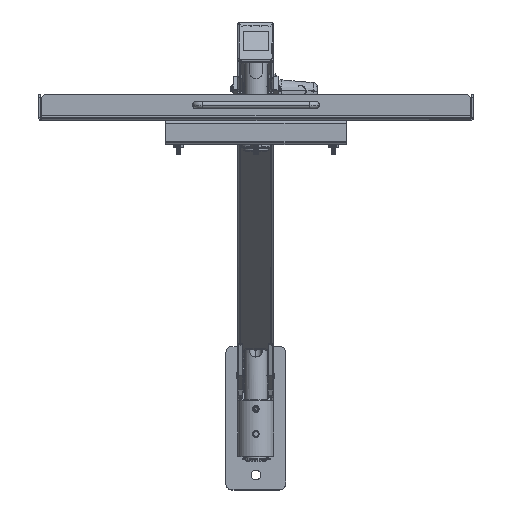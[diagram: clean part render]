
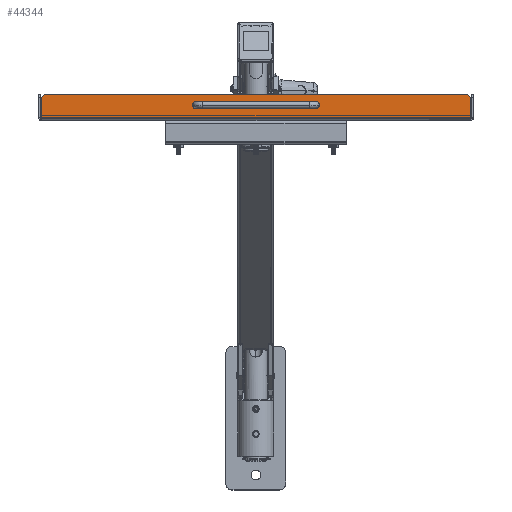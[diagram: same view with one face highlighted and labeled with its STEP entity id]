
A CAD part, top view. The second image highlights one B-rep face of the part: STEP entity #44344.
In plain terms, the highlighted planar face has unit normal (0, 0, 1).
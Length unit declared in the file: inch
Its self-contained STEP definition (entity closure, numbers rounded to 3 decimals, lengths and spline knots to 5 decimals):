
#641 = EDGE_CURVE ( 'NONE', #68570, #76427, #77883, .T. ) ;
#2420 = CIRCLE ( 'NONE', #49295, 0.1005 ) ;
#3566 = EDGE_CURVE ( 'NONE', #76427, #68570, #29264, .T. ) ;
#3640 = CARTESIAN_POINT ( 'NONE',  ( 8.75, 1., 6.09 ) ) ;
#4439 = CARTESIAN_POINT ( 'NONE',  ( 8.75, 0.75, 6.09 ) ) ;
#4906 = DIRECTION ( 'NONE',  ( 1., 0., 0. ) ) ;
#4948 = CIRCLE ( 'NONE', #79875, 0.25 ) ;
#5246 = CARTESIAN_POINT ( 'NONE',  ( 8.96464, 0.87817, 6.09 ) ) ;
#5421 = EDGE_CURVE ( 'NONE', #66751, #18018, #4948, .T. ) ;
#6008 = CARTESIAN_POINT ( 'NONE',  ( -2.5, 0.55, 6.09 ) ) ;
#7249 = VECTOR ( 'NONE', #71793, 39.37008 ) ;
#7621 = ORIENTED_EDGE ( 'NONE', *, *, #10723, .T. ) ;
#7655 = CARTESIAN_POINT ( 'NONE',  ( 8.75, 0.032, 6.09 ) ) ;
#7947 = DIRECTION ( 'NONE',  ( 0., -1., 0. ) ) ;
#8914 = ORIENTED_EDGE ( 'NONE', *, *, #5421, .F. ) ;
#9806 = VECTOR ( 'NONE', #48340, 39.37008 ) ;
#10723 = EDGE_CURVE ( 'NONE', #34569, #64443, #36702, .T. ) ;
#10832 = CIRCLE ( 'NONE', #75072, 0.25 ) ;
#13752 = CARTESIAN_POINT ( 'NONE',  ( 2.3995, 0.55, 6.09 ) ) ;
#15021 = DIRECTION ( 'NONE',  ( 0., 0., -1. ) ) ;
#15509 = CARTESIAN_POINT ( 'NONE',  ( -2.3995, 0.55, 6.09 ) ) ;
#18018 = VERTEX_POINT ( 'NONE', #36641 ) ;
#18463 = CARTESIAN_POINT ( 'NONE',  ( -2.5, 0.55, 6.09 ) ) ;
#18836 = ORIENTED_EDGE ( 'NONE', *, *, #43326, .F. ) ;
#18872 = CARTESIAN_POINT ( 'NONE',  ( 8.96464, 0.032, 6.09 ) ) ;
#21567 = CARTESIAN_POINT ( 'NONE',  ( -8.96464, 0.87817, 6.09 ) ) ;
#23755 = DIRECTION ( 'NONE',  ( 0., 0., -1. ) ) ;
#27283 = EDGE_LOOP ( 'NONE', ( #34568, #51881 ) ) ;
#27459 = VECTOR ( 'NONE', #4906, 39.37008 ) ;
#27597 = CARTESIAN_POINT ( 'NONE',  ( 2.6005, 0.55, 6.09 ) ) ;
#28042 = FACE_BOUND ( 'NONE', #27283, .T. ) ;
#28352 = VERTEX_POINT ( 'NONE', #38749 ) ;
#29032 = LINE ( 'NONE', #55472, #57877 ) ;
#29264 = CIRCLE ( 'NONE', #57408, 0.1005 ) ;
#32438 = CARTESIAN_POINT ( 'NONE',  ( -8.75, 0.75, 6.09 ) ) ;
#34289 = DIRECTION ( 'NONE',  ( -1., 0., 0. ) ) ;
#34305 = PLANE ( 'NONE',  #81417 ) ;
#34327 = EDGE_CURVE ( 'NONE', #66709, #81400, #10832, .T. ) ;
#34568 = ORIENTED_EDGE ( 'NONE', *, *, #3566, .T. ) ;
#34569 = VERTEX_POINT ( 'NONE', #15509 ) ;
#35745 = CARTESIAN_POINT ( 'NONE',  ( 8.96464, 0.75, 6.09 ) ) ;
#36633 = EDGE_LOOP ( 'NONE', ( #7621, #81966 ) ) ;
#36641 = CARTESIAN_POINT ( 'NONE',  ( -8.75, 1., 6.09 ) ) ;
#36702 = CIRCLE ( 'NONE', #52824, 0.1005 ) ;
#37213 = EDGE_CURVE ( 'NONE', #66751, #28352, #29032, .T. ) ;
#38749 = CARTESIAN_POINT ( 'NONE',  ( -8.96464, 0.032, 6.09 ) ) ;
#39053 = LINE ( 'NONE', #7655, #7249 ) ;
#39750 = DIRECTION ( 'NONE',  ( 0., 0., 1. ) ) ;
#40631 = ORIENTED_EDGE ( 'NONE', *, *, #59697, .T. ) ;
#43326 = EDGE_CURVE ( 'NONE', #81400, #46546, #81521, .T. ) ;
#43401 = ORIENTED_EDGE ( 'NONE', *, *, #37213, .T. ) ;
#44344 = ADVANCED_FACE ( 'NONE', ( #79214, #64989, #28042 ), #34305, .T. ) ;
#44461 = ORIENTED_EDGE ( 'NONE', *, *, #34327, .F. ) ;
#45314 = EDGE_CURVE ( 'NONE', #64443, #34569, #2420, .T. ) ;
#46546 = VERTEX_POINT ( 'NONE', #18872 ) ;
#48340 = DIRECTION ( 'NONE',  ( 0., -1., 0. ) ) ;
#49295 = AXIS2_PLACEMENT_3D ( 'NONE', #6008, #71375, #58794 ) ;
#51595 = DIRECTION ( 'NONE',  ( 0., 0., -1. ) ) ;
#51881 = ORIENTED_EDGE ( 'NONE', *, *, #641, .T. ) ;
#52784 = CARTESIAN_POINT ( 'NONE',  ( 2.5, 0.55, 6.09 ) ) ;
#52824 = AXIS2_PLACEMENT_3D ( 'NONE', #18463, #51595, #75535 ) ;
#55216 = CARTESIAN_POINT ( 'NONE',  ( 2.5, 0.55, 6.09 ) ) ;
#55472 = CARTESIAN_POINT ( 'NONE',  ( -8.96464, 0.75, 6.09 ) ) ;
#57408 = AXIS2_PLACEMENT_3D ( 'NONE', #52784, #15021, #34289 ) ;
#57647 = DIRECTION ( 'NONE',  ( 0., -1., 0. ) ) ;
#57877 = VECTOR ( 'NONE', #61755, 39.37008 ) ;
#58347 = DIRECTION ( 'NONE',  ( 0., 0., -1. ) ) ;
#58466 = DIRECTION ( 'NONE',  ( 0., 0., -1. ) ) ;
#58794 = DIRECTION ( 'NONE',  ( -1., 0., 0. ) ) ;
#59697 = EDGE_CURVE ( 'NONE', #28352, #46546, #39053, .T. ) ;
#61755 = DIRECTION ( 'NONE',  ( 0., -1., 0. ) ) ;
#62479 = ORIENTED_EDGE ( 'NONE', *, *, #64484, .F. ) ;
#64443 = VERTEX_POINT ( 'NONE', #77893 ) ;
#64484 = EDGE_CURVE ( 'NONE', #18018, #66709, #80385, .T. ) ;
#64989 = FACE_OUTER_BOUND ( 'NONE', #79065, .T. ) ;
#66709 = VERTEX_POINT ( 'NONE', #71500 ) ;
#66751 = VERTEX_POINT ( 'NONE', #21567 ) ;
#68570 = VERTEX_POINT ( 'NONE', #13752 ) ;
#69799 = AXIS2_PLACEMENT_3D ( 'NONE', #55216, #23755, #74496 ) ;
#71375 = DIRECTION ( 'NONE',  ( 0., 0., -1. ) ) ;
#71500 = CARTESIAN_POINT ( 'NONE',  ( 8.75, 1., 6.09 ) ) ;
#71793 = DIRECTION ( 'NONE',  ( 1., 0., 0. ) ) ;
#72906 = CARTESIAN_POINT ( 'NONE',  ( 8.75, 0.75, 6.09 ) ) ;
#74496 = DIRECTION ( 'NONE',  ( -1., 0., 0. ) ) ;
#75072 = AXIS2_PLACEMENT_3D ( 'NONE', #4439, #58347, #77634 ) ;
#75535 = DIRECTION ( 'NONE',  ( -1., 0., 0. ) ) ;
#76427 = VERTEX_POINT ( 'NONE', #27597 ) ;
#77634 = DIRECTION ( 'NONE',  ( 0., -1., 0. ) ) ;
#77883 = CIRCLE ( 'NONE', #69799, 0.1005 ) ;
#77893 = CARTESIAN_POINT ( 'NONE',  ( -2.6005, 0.55, 6.09 ) ) ;
#79065 = EDGE_LOOP ( 'NONE', ( #18836, #44461, #62479, #8914, #43401, #40631 ) ) ;
#79214 = FACE_BOUND ( 'NONE', #36633, .T. ) ;
#79875 = AXIS2_PLACEMENT_3D ( 'NONE', #32438, #58466, #57647 ) ;
#80385 = LINE ( 'NONE', #3640, #27459 ) ;
#81400 = VERTEX_POINT ( 'NONE', #5246 ) ;
#81417 = AXIS2_PLACEMENT_3D ( 'NONE', #72906, #39750, #7947 ) ;
#81521 = LINE ( 'NONE', #35745, #9806 ) ;
#81966 = ORIENTED_EDGE ( 'NONE', *, *, #45314, .T. ) ;
